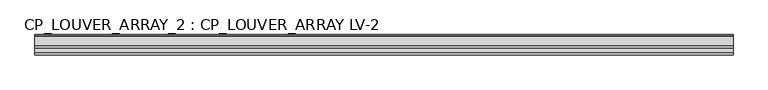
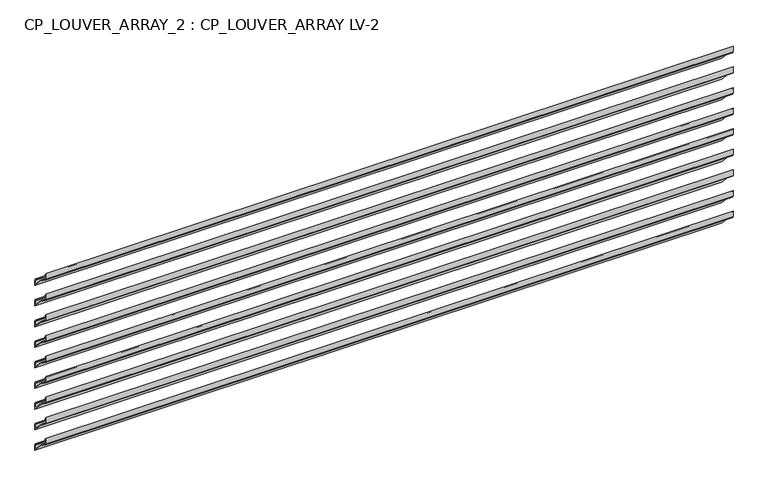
"""IFC4 building model written with IfcOpenShell, lengths in millimetres: plate geometry, CP_LOUVER_ARRAY_2 : CP_LOUVER_ARRAY LV-2."""

from ifc_helpers import new_model, si_unit, origin, place, context, project, spatial, faceted_brep, source, transform, mapped, element, save


def cp_louver_array_2_cp_louver_array_lv_2_821b3a80(model_context):
    return source(origin(), model_context, "Body", "Brep", [
        faceted_brep([(800.5016712, -96.3393096, 447.5165033), (800.5016712, -69.85, 419.1101965), (800.5016712, -69.85, 432.9818805), (800.5016712, -71.4632993, 436.1728583), (800.5016712, -73.025, 437.3225348), (800.5016712, -73.025, 435.4301063), (800.5016712, -71.374, 432.9818805), (800.5016712, -71.374, 422.9790959), (800.5016712, -94.5749864, 447.8480819), (800.5016712, -99.9681804, 451.7002768), (800.5016712, -113.6250477, 461.357519), (800.5016712, -114.6556, 463.3484382), (800.5016712, -114.6556, 473.3034961), (800.5016712, -111.4806, 469.8987254), (800.5016712, -111.4806, 472.1333349), (800.5016712, -116.1796, 477.1723955), (800.5016712, -116.1796, 463.3484382), (800.5016712, -114.5049525, 460.1131944), (800.5016712, -100.8480853, 450.4559523), (-800.5016712, -96.3393096, 447.5165033), (-800.5016712, -100.8480853, 450.4559523), (-800.5016712, -114.5049525, 460.1131944), (-800.5016712, -116.1796, 463.3484382), (-800.5016712, -116.1796, 477.1723955), (-800.5016712, -111.4806, 472.1333349), (-800.5016712, -111.4806, 469.8987254), (-800.5016712, -114.6556, 473.3034961), (-800.5016712, -114.6556, 463.3484382), (-800.5016712, -113.6250477, 461.357519), (-800.5016712, -99.9681804, 451.7002768), (-800.5016712, -94.5749864, 447.8480819), (-800.5016712, -71.3542993, 422.9975045), (-800.5016712, -71.374, 432.9818805), (-800.5016712, -73.025, 435.4301063), (-800.5016712, -73.025, 437.3225348), (-800.5016712, -71.4632993, 436.1728583), (-800.5016712, -69.85, 432.9818805), (-800.5016712, -69.85, 419.1101965)], [[[0, 1, 2, 3, 4, 5, 6, 7, 8, 9, 10, 11, 12, 13, 14, 15, 16, 17, 18]], [[19, 20, 21, 22, 23, 24, 25, 26, 27, 28, 29, 30, 31, 32, 33, 34, 35, 36, 37]], [[1, 0, 19, 37]], [[2, 1, 37, 36]], [[3, 2, 36, 35]], [[4, 3, 35, 34]], [[5, 4, 34, 33]], [[6, 5, 33, 32]], [[7, 6, 32, 31]], [[7, 31, 30, 8]], [[9, 8, 30, 29]], [[10, 9, 29, 28]], [[11, 10, 28, 27]], [[12, 11, 27, 26]], [[13, 12, 26, 25]], [[14, 13, 25, 24]], [[15, 14, 24, 23]], [[16, 15, 23, 22]], [[17, 16, 22, 21]], [[18, 17, 21, 20]], [[0, 18, 20, 19]]]),
        faceted_brep([(800.5016712, -96.3393096, 396.7152288), (800.5016712, -69.85, 368.308922), (800.5016712, -69.85, 382.1806059), (800.5016712, -71.4632993, 385.3715838), (800.5016712, -73.025, 386.5212603), (800.5016712, -73.025, 384.6288317), (800.5016712, -71.374, 382.1806059), (800.5016712, -71.374, 372.1778214), (800.5016712, -94.5749864, 397.0468074), (800.5016712, -99.9681804, 400.8990022), (800.5016712, -113.6250477, 410.5562444), (800.5016712, -114.6556, 412.5471636), (800.5016712, -114.6556, 422.5022215), (800.5016712, -111.4806, 419.0974509), (800.5016712, -111.4806, 421.3320603), (800.5016712, -116.1796, 426.3711209), (800.5016712, -116.1796, 412.5471636), (800.5016712, -114.5049525, 409.3119199), (800.5016712, -100.8480853, 399.6546777), (-800.5016712, -96.3393096, 396.7152288), (-800.5016712, -100.8480853, 399.6546777), (-800.5016712, -114.5049525, 409.3119199), (-800.5016712, -116.1796, 412.5471636), (-800.5016712, -116.1796, 426.3711209), (-800.5016712, -111.4806, 421.3320603), (-800.5016712, -111.4806, 419.0974509), (-800.5016712, -114.6556, 422.5022215), (-800.5016712, -114.6556, 412.5471636), (-800.5016712, -113.6250477, 410.5562444), (-800.5016712, -99.9681804, 400.8990022), (-800.5016712, -94.5749864, 397.0468074), (-800.5016712, -71.3542993, 372.1962299), (-800.5016712, -71.374, 382.1806059), (-800.5016712, -73.025, 384.6288317), (-800.5016712, -73.025, 386.5212603), (-800.5016712, -71.4632993, 385.3715838), (-800.5016712, -69.85, 382.1806059), (-800.5016712, -69.85, 368.308922)], [[[0, 1, 2, 3, 4, 5, 6, 7, 8, 9, 10, 11, 12, 13, 14, 15, 16, 17, 18]], [[19, 20, 21, 22, 23, 24, 25, 26, 27, 28, 29, 30, 31, 32, 33, 34, 35, 36, 37]], [[1, 0, 19, 37]], [[2, 1, 37, 36]], [[3, 2, 36, 35]], [[4, 3, 35, 34]], [[5, 4, 34, 33]], [[6, 5, 33, 32]], [[7, 6, 32, 31]], [[7, 31, 30, 8]], [[9, 8, 30, 29]], [[10, 9, 29, 28]], [[11, 10, 28, 27]], [[12, 11, 27, 26]], [[13, 12, 26, 25]], [[14, 13, 25, 24]], [[15, 14, 24, 23]], [[16, 15, 23, 22]], [[17, 16, 22, 21]], [[18, 17, 21, 20]], [[0, 18, 20, 19]]]),
        faceted_brep([(800.5016712, -96.3393096, 345.9139542), (800.5016712, -69.85, 317.5076474), (800.5016712, -69.85, 331.3793314), (800.5016712, -71.4632993, 334.5703092), (800.5016712, -73.025, 335.7199857), (800.5016712, -73.025, 333.8275571), (800.5016712, -71.374, 331.3793314), (800.5016712, -71.374, 321.3765468), (800.5016712, -94.5749864, 346.2455328), (800.5016712, -99.9681804, 350.0977276), (800.5016712, -113.6250477, 359.7549698), (800.5016712, -114.6556, 361.7458891), (800.5016712, -114.6556, 371.7009469), (800.5016712, -111.4806, 368.2961763), (800.5016712, -111.4806, 370.5307858), (800.5016712, -116.1796, 375.5698463), (800.5016712, -116.1796, 361.7458891), (800.5016712, -114.5049525, 358.5106453), (800.5016712, -100.8480853, 348.8534031), (-800.5016712, -96.3393096, 345.9139542), (-800.5016712, -100.8480853, 348.8534031), (-800.5016712, -114.5049525, 358.5106453), (-800.5016712, -116.1796, 361.7458891), (-800.5016712, -116.1796, 375.5698463), (-800.5016712, -111.4806, 370.5307858), (-800.5016712, -111.4806, 368.2961763), (-800.5016712, -114.6556, 371.7009469), (-800.5016712, -114.6556, 361.7458891), (-800.5016712, -113.6250477, 359.7549698), (-800.5016712, -99.9681804, 350.0977276), (-800.5016712, -94.5749864, 346.2455328), (-800.5016712, -71.3542993, 321.3949553), (-800.5016712, -71.374, 331.3793314), (-800.5016712, -73.025, 333.8275571), (-800.5016712, -73.025, 335.7199857), (-800.5016712, -71.4632993, 334.5703092), (-800.5016712, -69.85, 331.3793314), (-800.5016712, -69.85, 317.5076474)], [[[0, 1, 2, 3, 4, 5, 6, 7, 8, 9, 10, 11, 12, 13, 14, 15, 16, 17, 18]], [[19, 20, 21, 22, 23, 24, 25, 26, 27, 28, 29, 30, 31, 32, 33, 34, 35, 36, 37]], [[1, 0, 19, 37]], [[2, 1, 37, 36]], [[3, 2, 36, 35]], [[4, 3, 35, 34]], [[5, 4, 34, 33]], [[6, 5, 33, 32]], [[7, 6, 32, 31]], [[7, 31, 30, 8]], [[9, 8, 30, 29]], [[10, 9, 29, 28]], [[11, 10, 28, 27]], [[12, 11, 27, 26]], [[13, 12, 26, 25]], [[14, 13, 25, 24]], [[15, 14, 24, 23]], [[16, 15, 23, 22]], [[17, 16, 22, 21]], [[18, 17, 21, 20]], [[0, 18, 20, 19]]]),
        faceted_brep([(800.5016712, -96.3393096, 295.1126796), (800.5016712, -69.85, 266.7063728), (800.5016712, -69.85, 280.5780568), (800.5016712, -71.4632993, 283.7690346), (800.5016712, -73.025, 284.9187111), (800.5016712, -73.025, 283.0262826), (800.5016712, -71.374, 280.5780568), (800.5016712, -71.374, 270.5752722), (800.5016712, -94.5749864, 295.4442582), (800.5016712, -99.9681804, 299.2964531), (800.5016712, -113.6250477, 308.9536953), (800.5016712, -114.6556, 310.9446145), (800.5016712, -114.6556, 320.8996724), (800.5016712, -111.4806, 317.4949017), (800.5016712, -111.4806, 319.7295112), (800.5016712, -116.1796, 324.7685718), (800.5016712, -116.1796, 310.9446145), (800.5016712, -114.5049525, 307.7093707), (800.5016712, -100.8480853, 298.0521286), (-800.5016712, -96.3393096, 295.1126796), (-800.5016712, -100.8480853, 298.0521286), (-800.5016712, -114.5049525, 307.7093707), (-800.5016712, -116.1796, 310.9446145), (-800.5016712, -116.1796, 324.7685718), (-800.5016712, -111.4806, 319.7295112), (-800.5016712, -111.4806, 317.4949017), (-800.5016712, -114.6556, 320.8996724), (-800.5016712, -114.6556, 310.9446145), (-800.5016712, -113.6250477, 308.9536953), (-800.5016712, -99.9681804, 299.2964531), (-800.5016712, -94.5749864, 295.4442582), (-800.5016712, -71.3542993, 270.5936808), (-800.5016712, -71.374, 280.5780568), (-800.5016712, -73.025, 283.0262826), (-800.5016712, -73.025, 284.9187111), (-800.5016712, -71.4632993, 283.7690346), (-800.5016712, -69.85, 280.5780568), (-800.5016712, -69.85, 266.7063728)], [[[0, 1, 2, 3, 4, 5, 6, 7, 8, 9, 10, 11, 12, 13, 14, 15, 16, 17, 18]], [[19, 20, 21, 22, 23, 24, 25, 26, 27, 28, 29, 30, 31, 32, 33, 34, 35, 36, 37]], [[1, 0, 19, 37]], [[2, 1, 37, 36]], [[3, 2, 36, 35]], [[4, 3, 35, 34]], [[5, 4, 34, 33]], [[6, 5, 33, 32]], [[7, 6, 32, 31]], [[7, 31, 30, 8]], [[9, 8, 30, 29]], [[10, 9, 29, 28]], [[11, 10, 28, 27]], [[12, 11, 27, 26]], [[13, 12, 26, 25]], [[14, 13, 25, 24]], [[15, 14, 24, 23]], [[16, 15, 23, 22]], [[17, 16, 22, 21]], [[18, 17, 21, 20]], [[0, 18, 20, 19]]]),
        faceted_brep([(800.5016712, -96.3393096, 244.3114051), (800.5016712, -69.85, 215.9050983), (800.5016712, -69.85, 229.7767822), (800.5016712, -71.4632993, 232.9677601), (800.5016712, -73.025, 234.1174365), (800.5016712, -73.025, 232.225008), (800.5016712, -71.374, 229.7767822), (800.5016712, -71.374, 219.7739977), (800.5016712, -94.5749864, 244.6429837), (800.5016712, -99.9681804, 248.4951785), (800.5016712, -113.6250477, 258.1524207), (800.5016712, -114.6556, 260.1433399), (800.5016712, -114.6556, 270.0983978), (800.5016712, -111.4806, 266.6936272), (800.5016712, -111.4806, 268.9282366), (800.5016712, -116.1796, 273.9672972), (800.5016712, -116.1796, 260.1433399), (800.5016712, -114.5049525, 256.9080962), (800.5016712, -100.8480853, 247.250854), (-800.5016712, -96.3393096, 244.3114051), (-800.5016712, -100.8480853, 247.250854), (-800.5016712, -114.5049525, 256.9080962), (-800.5016712, -116.1796, 260.1433399), (-800.5016712, -116.1796, 273.9672972), (-800.5016712, -111.4806, 268.9282366), (-800.5016712, -111.4806, 266.6936272), (-800.5016712, -114.6556, 270.0983978), (-800.5016712, -114.6556, 260.1433399), (-800.5016712, -113.6250477, 258.1524207), (-800.5016712, -99.9681804, 248.4951785), (-800.5016712, -94.5749864, 244.6429837), (-800.5016712, -71.3542993, 219.7924062), (-800.5016712, -71.374, 229.7767822), (-800.5016712, -73.025, 232.225008), (-800.5016712, -73.025, 234.1174365), (-800.5016712, -71.4632993, 232.9677601), (-800.5016712, -69.85, 229.7767822), (-800.5016712, -69.85, 215.9050983)], [[[0, 1, 2, 3, 4, 5, 6, 7, 8, 9, 10, 11, 12, 13, 14, 15, 16, 17, 18]], [[19, 20, 21, 22, 23, 24, 25, 26, 27, 28, 29, 30, 31, 32, 33, 34, 35, 36, 37]], [[1, 0, 19, 37]], [[2, 1, 37, 36]], [[3, 2, 36, 35]], [[4, 3, 35, 34]], [[5, 4, 34, 33]], [[6, 5, 33, 32]], [[7, 6, 32, 31]], [[7, 31, 30, 8]], [[9, 8, 30, 29]], [[10, 9, 29, 28]], [[11, 10, 28, 27]], [[12, 11, 27, 26]], [[13, 12, 26, 25]], [[14, 13, 25, 24]], [[15, 14, 24, 23]], [[16, 15, 23, 22]], [[17, 16, 22, 21]], [[18, 17, 21, 20]], [[0, 18, 20, 19]]]),
        faceted_brep([(800.5016712, -96.3393096, 193.5101305), (800.5016712, -69.85, 165.1038237), (800.5016712, -69.85, 178.9755076), (800.5016712, -71.4632993, 182.1664855), (800.5016712, -73.025, 183.316162), (800.5016712, -73.025, 181.4237334), (800.5016712, -71.374, 178.9755076), (800.5016712, -71.374, 168.9727231), (800.5016712, -94.5749864, 193.8417091), (800.5016712, -99.9681804, 197.6939039), (800.5016712, -113.6250477, 207.3511461), (800.5016712, -114.6556, 209.3420654), (800.5016712, -114.6556, 219.2971232), (800.5016712, -111.4806, 215.8923526), (800.5016712, -111.4806, 218.1269621), (800.5016712, -116.1796, 223.1660226), (800.5016712, -116.1796, 209.3420654), (800.5016712, -114.5049525, 206.1068216), (800.5016712, -100.8480853, 196.4495794), (-800.5016712, -96.3393096, 193.5101305), (-800.5016712, -100.8480853, 196.4495794), (-800.5016712, -114.5049525, 206.1068216), (-800.5016712, -116.1796, 209.3420654), (-800.5016712, -116.1796, 223.1660226), (-800.5016712, -111.4806, 218.1269621), (-800.5016712, -111.4806, 215.8923526), (-800.5016712, -114.6556, 219.2971232), (-800.5016712, -114.6556, 209.3420654), (-800.5016712, -113.6250477, 207.3511461), (-800.5016712, -99.9681804, 197.6939039), (-800.5016712, -94.5749864, 193.8417091), (-800.5016712, -71.3542993, 168.9911316), (-800.5016712, -71.374, 178.9755076), (-800.5016712, -73.025, 181.4237334), (-800.5016712, -73.025, 183.316162), (-800.5016712, -71.4632993, 182.1664855), (-800.5016712, -69.85, 178.9755076), (-800.5016712, -69.85, 165.1038237)], [[[0, 1, 2, 3, 4, 5, 6, 7, 8, 9, 10, 11, 12, 13, 14, 15, 16, 17, 18]], [[19, 20, 21, 22, 23, 24, 25, 26, 27, 28, 29, 30, 31, 32, 33, 34, 35, 36, 37]], [[1, 0, 19, 37]], [[2, 1, 37, 36]], [[3, 2, 36, 35]], [[4, 3, 35, 34]], [[5, 4, 34, 33]], [[6, 5, 33, 32]], [[7, 6, 32, 31]], [[7, 31, 30, 8]], [[9, 8, 30, 29]], [[10, 9, 29, 28]], [[11, 10, 28, 27]], [[12, 11, 27, 26]], [[13, 12, 26, 25]], [[14, 13, 25, 24]], [[15, 14, 24, 23]], [[16, 15, 23, 22]], [[17, 16, 22, 21]], [[18, 17, 21, 20]], [[0, 18, 20, 19]]]),
        faceted_brep([(800.5016712, -96.3393096, 142.7088559), (800.5016712, -69.85, 114.3025491), (800.5016712, -69.85, 128.1742331), (800.5016712, -71.4632993, 131.3652109), (800.5016712, -73.025, 132.5148874), (800.5016712, -73.025, 130.6224589), (800.5016712, -71.374, 128.1742331), (800.5016712, -71.374, 118.1714485), (800.5016712, -94.5749864, 143.0404345), (800.5016712, -99.9681804, 146.8926294), (800.5016712, -113.6250477, 156.5498716), (800.5016712, -114.6556, 158.5407908), (800.5016712, -114.6556, 168.4958487), (800.5016712, -111.4806, 165.091078), (800.5016712, -111.4806, 167.3256875), (800.5016712, -116.1796, 172.3647481), (800.5016712, -116.1796, 158.5407908), (800.5016712, -114.5049525, 155.305547), (800.5016712, -100.8480853, 145.6483048), (-800.5016712, -96.3393096, 142.7088559), (-800.5016712, -100.8480853, 145.6483048), (-800.5016712, -114.5049525, 155.305547), (-800.5016712, -116.1796, 158.5407908), (-800.5016712, -116.1796, 172.3647481), (-800.5016712, -111.4806, 167.3256875), (-800.5016712, -111.4806, 165.091078), (-800.5016712, -114.6556, 168.4958487), (-800.5016712, -114.6556, 158.5407908), (-800.5016712, -113.6250477, 156.5498716), (-800.5016712, -99.9681804, 146.8926294), (-800.5016712, -94.5749864, 143.0404345), (-800.5016712, -71.3542993, 118.1898571), (-800.5016712, -71.374, 128.1742331), (-800.5016712, -73.025, 130.6224589), (-800.5016712, -73.025, 132.5148874), (-800.5016712, -71.4632993, 131.3652109), (-800.5016712, -69.85, 128.1742331), (-800.5016712, -69.85, 114.3025491)], [[[0, 1, 2, 3, 4, 5, 6, 7, 8, 9, 10, 11, 12, 13, 14, 15, 16, 17, 18]], [[19, 20, 21, 22, 23, 24, 25, 26, 27, 28, 29, 30, 31, 32, 33, 34, 35, 36, 37]], [[1, 0, 19, 37]], [[2, 1, 37, 36]], [[3, 2, 36, 35]], [[4, 3, 35, 34]], [[5, 4, 34, 33]], [[6, 5, 33, 32]], [[7, 6, 32, 31]], [[7, 31, 30, 8]], [[9, 8, 30, 29]], [[10, 9, 29, 28]], [[11, 10, 28, 27]], [[12, 11, 27, 26]], [[13, 12, 26, 25]], [[14, 13, 25, 24]], [[15, 14, 24, 23]], [[16, 15, 23, 22]], [[17, 16, 22, 21]], [[18, 17, 21, 20]], [[0, 18, 20, 19]]]),
        faceted_brep([(800.5016712, -96.3393096, 91.9075814), (800.5016712, -69.85, 63.5012746), (800.5016712, -69.85, 77.3729585), (800.5016712, -71.4632993, 80.5639364), (800.5016712, -73.025, 81.7136128), (800.5016712, -73.025, 79.8211843), (800.5016712, -71.374, 77.3729585), (800.5016712, -71.374, 67.370174), (800.5016712, -94.5749864, 92.23916), (800.5016712, -99.9681804, 96.0913548), (800.5016712, -113.6250477, 105.748597), (800.5016712, -114.6556, 107.7395162), (800.5016712, -114.6556, 117.6945741), (800.5016712, -111.4806, 114.2898035), (800.5016712, -111.4806, 116.5244129), (800.5016712, -116.1796, 121.5634735), (800.5016712, -116.1796, 107.7395162), (800.5016712, -114.5049525, 104.5042725), (800.5016712, -100.8480853, 94.8470303), (-800.5016712, -96.3393096, 91.9075814), (-800.5016712, -100.8480853, 94.8470303), (-800.5016712, -114.5049525, 104.5042725), (-800.5016712, -116.1796, 107.7395162), (-800.5016712, -116.1796, 121.5634735), (-800.5016712, -111.4806, 116.5244129), (-800.5016712, -111.4806, 114.2898035), (-800.5016712, -114.6556, 117.6945741), (-800.5016712, -114.6556, 107.7395162), (-800.5016712, -113.6250477, 105.748597), (-800.5016712, -99.9681804, 96.0913548), (-800.5016712, -94.5749864, 92.23916), (-800.5016712, -71.3542993, 67.3885825), (-800.5016712, -71.374, 77.3729585), (-800.5016712, -73.025, 79.8211843), (-800.5016712, -73.025, 81.7136128), (-800.5016712, -71.4632993, 80.5639364), (-800.5016712, -69.85, 77.3729585), (-800.5016712, -69.85, 63.5012746)], [[[0, 1, 2, 3, 4, 5, 6, 7, 8, 9, 10, 11, 12, 13, 14, 15, 16, 17, 18]], [[19, 20, 21, 22, 23, 24, 25, 26, 27, 28, 29, 30, 31, 32, 33, 34, 35, 36, 37]], [[1, 0, 19, 37]], [[2, 1, 37, 36]], [[3, 2, 36, 35]], [[4, 3, 35, 34]], [[5, 4, 34, 33]], [[6, 5, 33, 32]], [[7, 6, 32, 31]], [[7, 31, 30, 8]], [[9, 8, 30, 29]], [[10, 9, 29, 28]], [[11, 10, 28, 27]], [[12, 11, 27, 26]], [[13, 12, 26, 25]], [[14, 13, 25, 24]], [[15, 14, 24, 23]], [[16, 15, 23, 22]], [[17, 16, 22, 21]], [[18, 17, 21, 20]], [[0, 18, 20, 19]]]),
        faceted_brep([(800.5016712, -96.3393096, 41.1063068), (800.5016712, -69.85, 12.7), (800.5016712, -69.85, 26.5716839), (800.5016712, -71.4632993, 29.7626618), (800.5016712, -73.025, 30.9123383), (800.5016712, -73.025, 29.0199097), (800.5016712, -71.374, 26.5716839), (800.5016712, -71.374, 16.5688994), (800.5016712, -94.5749864, 41.4378854), (800.5016712, -99.9681804, 45.2900802), (800.5016712, -113.6250477, 54.9473224), (800.5016712, -114.6556, 56.9382417), (800.5016712, -114.6556, 66.8932995), (800.5016712, -111.4806, 63.4885289), (800.5016712, -111.4806, 65.7231384), (800.5016712, -116.1796, 70.7621989), (800.5016712, -116.1796, 56.9382417), (800.5016712, -114.5049525, 53.7029979), (800.5016712, -100.8480853, 44.0457557), (-800.5016712, -96.3393096, 41.1063068), (-800.5016712, -100.8480853, 44.0457557), (-800.5016712, -114.5049525, 53.7029979), (-800.5016712, -116.1796, 56.9382417), (-800.5016712, -116.1796, 70.7621989), (-800.5016712, -111.4806, 65.7231384), (-800.5016712, -111.4806, 63.4885289), (-800.5016712, -114.6556, 66.8932995), (-800.5016712, -114.6556, 56.9382417), (-800.5016712, -113.6250477, 54.9473224), (-800.5016712, -99.9681804, 45.2900802), (-800.5016712, -94.5749864, 41.4378854), (-800.5016712, -71.3542993, 16.5873079), (-800.5016712, -71.374, 26.5716839), (-800.5016712, -73.025, 29.0199097), (-800.5016712, -73.025, 30.9123383), (-800.5016712, -71.4632993, 29.7626618), (-800.5016712, -69.85, 26.5716839), (-800.5016712, -69.85, 12.7)], [[[0, 1, 2, 3, 4, 5, 6, 7, 8, 9, 10, 11, 12, 13, 14, 15, 16, 17, 18]], [[19, 20, 21, 22, 23, 24, 25, 26, 27, 28, 29, 30, 31, 32, 33, 34, 35, 36, 37]], [[1, 0, 19, 37]], [[2, 1, 37, 36]], [[3, 2, 36, 35]], [[4, 3, 35, 34]], [[5, 4, 34, 33]], [[6, 5, 33, 32]], [[7, 6, 32, 31]], [[7, 31, 30, 8]], [[9, 8, 30, 29]], [[10, 9, 29, 28]], [[11, 10, 28, 27]], [[12, 11, 27, 26]], [[13, 12, 26, 25]], [[14, 13, 25, 24]], [[15, 14, 24, 23]], [[16, 15, 23, 22]], [[17, 16, 22, 21]], [[18, 17, 21, 20]], [[0, 18, 20, 19]]]),
    ])


if __name__ == "__main__":
    model = new_model("IFC4")
    model_context = context("Model", 3, world=origin())
    ifc_project = project(units=[si_unit("LENGTHUNIT", "METRE", prefix="MILLI")], contexts=[model_context])
    site = spatial("IfcSite", under=ifc_project)
    building = spatial("IfcBuilding", under=site)
    placement = place(None, origin())
    cp_louver_array_2_cp_louver_array_lv_2_shape = cp_louver_array_2_cp_louver_array_lv_2_821b3a80(model_context)
    element("IfcPlate", 1, ObjectType="CP_LOUVER_ARRAY_2 : CP_LOUVER_ARRAY LV-2", at=placement, inside=building, context=model_context, shape_type="MappedRepresentation", body=[
        mapped(cp_louver_array_2_cp_louver_array_lv_2_shape, transform((0.0, 0.0, 0.0), x_axis=(1.0, 0.0, 0.0), y_axis=(0.0, 1.0, 0.0), z_axis=(0.0, 0.0, 1.0))),
    ])
    save(model, "model.ifc")
